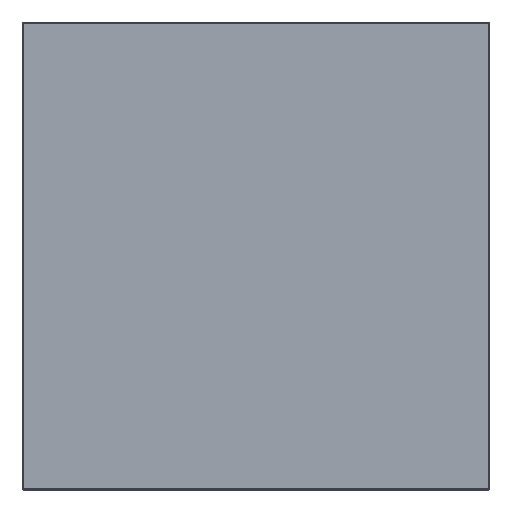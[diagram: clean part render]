
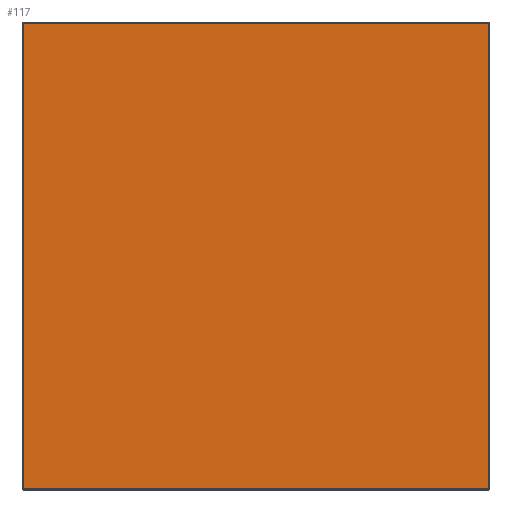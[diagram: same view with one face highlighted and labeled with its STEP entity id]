
A CAD part, top view. The second image highlights one B-rep face of the part: STEP entity #117.
In plain terms, the highlighted planar face has unit normal (0, 0, 1).
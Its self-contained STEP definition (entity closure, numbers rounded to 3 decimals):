
#117=ADVANCED_FACE('',(#679),#7763,.T.);
#679=FACE_OUTER_BOUND('',#1241,.T.);
#1241=EDGE_LOOP('',(#1880,#1881,#1882,#1883));
#1880=ORIENTED_EDGE('',*,*,#4253,.T.);
#1881=ORIENTED_EDGE('',*,*,#4255,.T.);
#1882=ORIENTED_EDGE('',*,*,#4254,.T.);
#1883=ORIENTED_EDGE('',*,*,#4256,.T.);
#4253=EDGE_CURVE('',#6642,#6643,#6375,.T.);
#4254=EDGE_CURVE('',#6644,#6645,#6376,.T.);
#4255=EDGE_CURVE('',#6643,#6644,#6377,.T.);
#4256=EDGE_CURVE('',#6645,#6642,#6378,.T.);
#6375=B_SPLINE_CURVE_WITH_KNOTS('',1,(#8370,#8371),.UNSPECIFIED.,.F.,.F.,
(2,2),(1.,449.),.UNSPECIFIED.);
#6376=B_SPLINE_CURVE_WITH_KNOTS('',1,(#8372,#8373),.UNSPECIFIED.,.F.,.F.,
(2,2),(1.,449.),.UNSPECIFIED.);
#6377=B_SPLINE_CURVE_WITH_KNOTS('',1,(#8374,#8375),.UNSPECIFIED.,.F.,.F.,
(2,2),(1.,449.),.UNSPECIFIED.);
#6378=B_SPLINE_CURVE_WITH_KNOTS('',1,(#8376,#8377),.UNSPECIFIED.,.F.,.F.,
(2,2),(1.,449.),.UNSPECIFIED.);
#6642=VERTEX_POINT('',#8332);
#6643=VERTEX_POINT('',#8333);
#6644=VERTEX_POINT('',#8334);
#6645=VERTEX_POINT('',#8335);
#7763=PLANE('',#7899);
#7899=AXIS2_PLACEMENT_3D('',#8201,#8018,$);
#8018=DIRECTION('',(0.,0.,1.));
#8201=CARTESIAN_POINT('',(0.,0.,450.));
#8332=CARTESIAN_POINT('',(-449.,-1.,450.));
#8333=CARTESIAN_POINT('',(-449.,-449.,450.));
#8334=CARTESIAN_POINT('',(-1.,-449.,450.));
#8335=CARTESIAN_POINT('',(-1.,-1.,450.));
#8370=CARTESIAN_POINT('',(-449.,-1.,450.));
#8371=CARTESIAN_POINT('',(-449.,-449.,450.));
#8372=CARTESIAN_POINT('',(-1.,-449.,450.));
#8373=CARTESIAN_POINT('',(-1.,-1.,450.));
#8374=CARTESIAN_POINT('',(-449.,-449.,450.));
#8375=CARTESIAN_POINT('',(-1.,-449.,450.));
#8376=CARTESIAN_POINT('',(-1.,-1.,450.));
#8377=CARTESIAN_POINT('',(-449.,-1.,450.));
